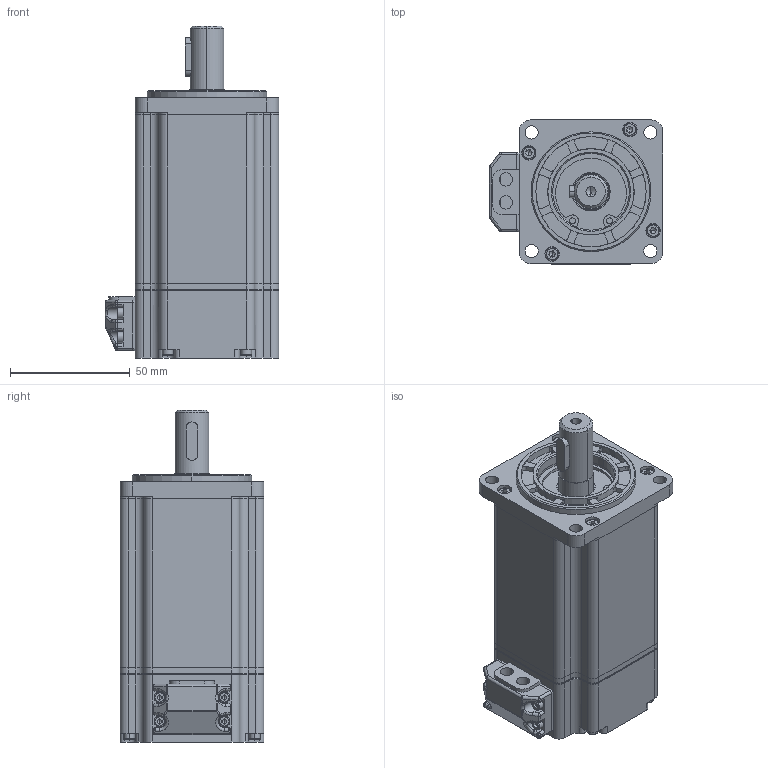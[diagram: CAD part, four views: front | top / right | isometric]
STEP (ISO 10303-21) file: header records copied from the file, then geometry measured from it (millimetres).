
FILE_DESCRIPTION (( 'STEP AP203' ), '1' );
FILE_NAME ('淕儂蚾饜.STEP', '2021-03-12T01:47:20', ( 'admin' ), ( '' ), 'SwSTEP 2.0', 'SolidWorks 2016', '' );
FILE_SCHEMA (( 'CONFIG_CONTROL_DESIGN' ));
Products named in the file (1): 淕儂蚾饜
Bounding box: 72.5 x 60 x 138.5 mm (x, y, z)
Volume: 141951.9 mm3; surface area: 97084.7 mm2
Topology: 25 solids, 25 shells, 1343 faces, 3647 edges, 2290 vertices
Faces by surface type: cylinder 579, plane 473, cone 123, torus 98, sphere 58, bspline 12
Entity records: 44043 total; most frequent: CARTESIAN_POINT 10097, DIRECTION 7458, ORIENTED_EDGE 6946, EDGE_CURVE 3473, AXIS2_PLACEMENT_3D 2943, VERTEX_POINT 2226, CIRCLE 1611, LINE 1572
